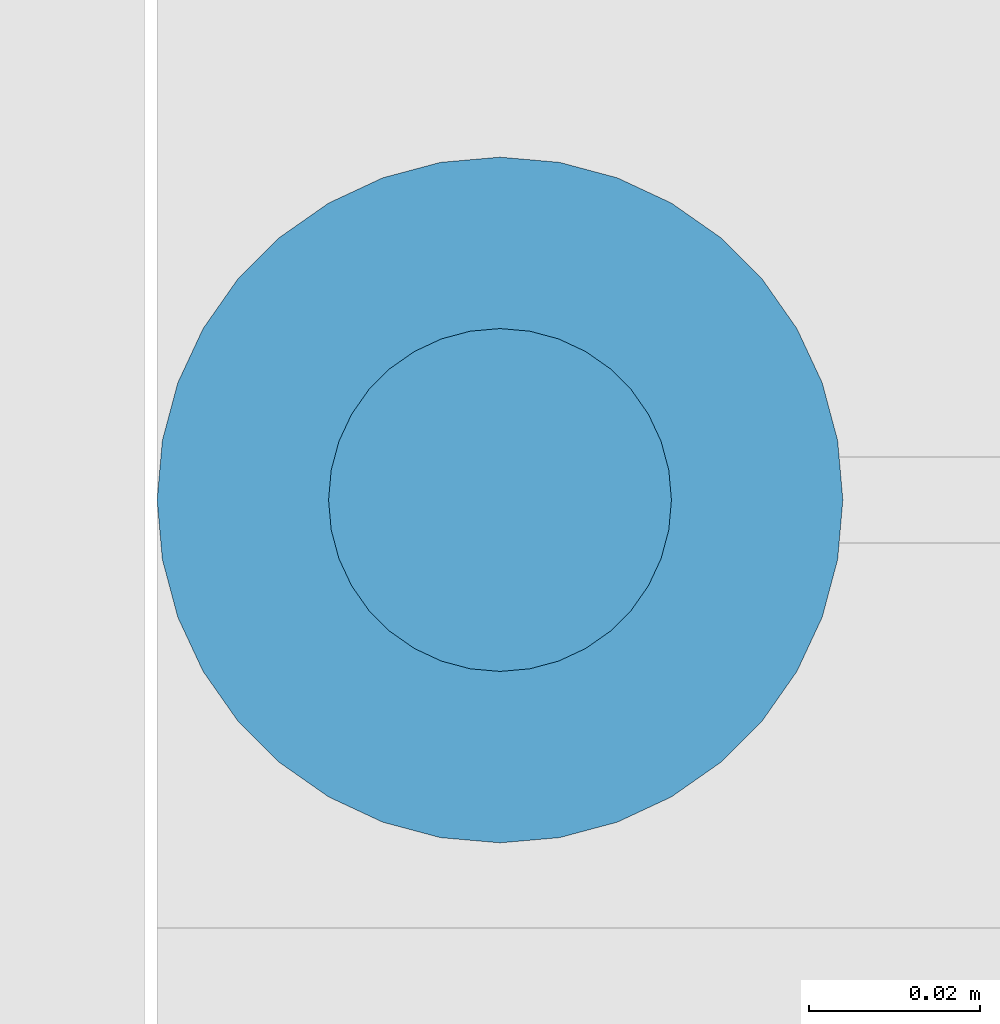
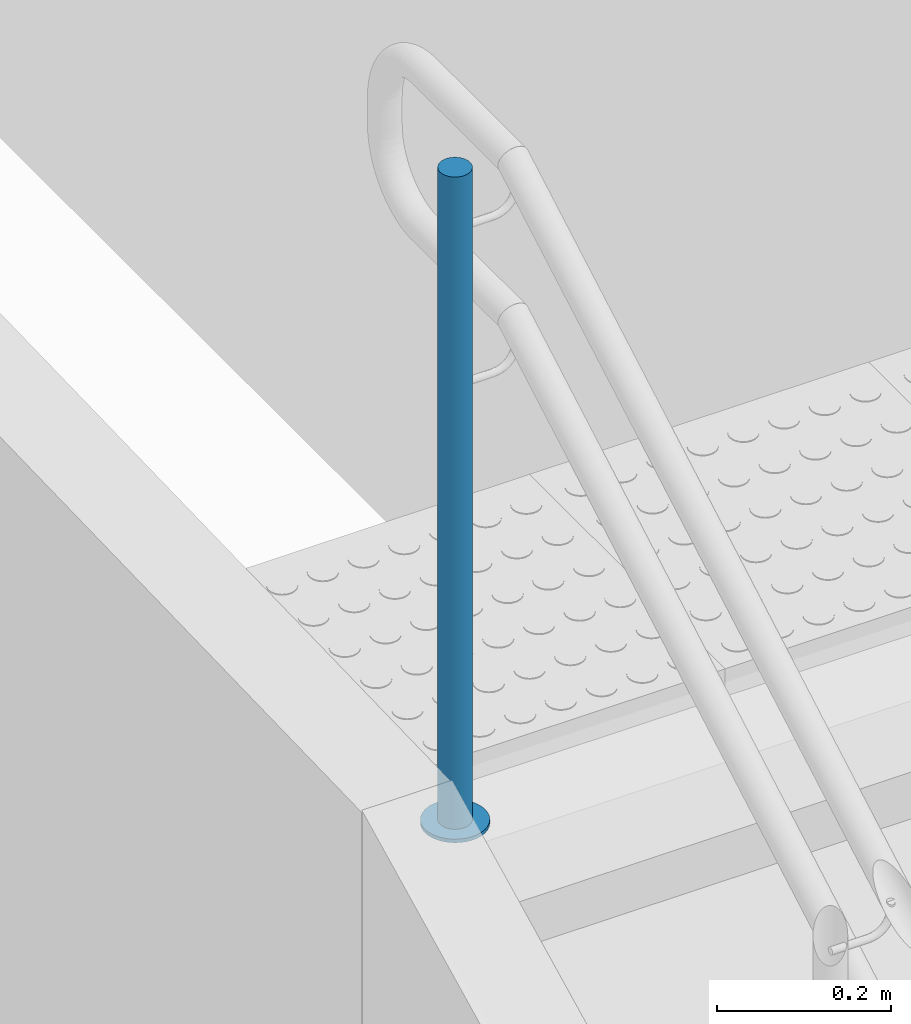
# One storey, part 85 of 237: 2 building element parts, 1 element without a shape of its own.
"""IFC2X3 building model written with IfcOpenShell, lengths in millimetres."""

from ifc_helpers import new_model, entity, si_unit, converted_unit, derived_unit, money_unit, direction, frame, origin_with_axes, place, context, subcontext, project, spatial, faceted_brep, material, type_object, element, aggregate, save


model = new_model("IFC2X3")

# Units and contexts
model_context = context("Model", 3, precision=0.01, world=origin_with_axes(), true_north=direction((0.0, 1.0)))
body_context = subcontext(model_context, "Body", "Model", "MODEL_VIEW")
ifc_project = project(units=[si_unit("LENGTHUNIT", "METRE", prefix="MILLI"), si_unit("AREAUNIT", "SQUARE_METRE"), si_unit("VOLUMEUNIT", "CUBIC_METRE"), converted_unit("PLANEANGLEUNIT", "DEGREE", entity("IfcPlaneAngleMeasure", 0.0174532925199), si_unit("PLANEANGLEUNIT", "RADIAN"), dimensions=[0, 0, 0, 0, 0, 0, 0]), money_unit("USD"), converted_unit("TIMEUNIT", "Year", entity("IfcTimeMeasure", 31556926.0), si_unit("TIMEUNIT", "SECOND"), dimensions=[0, 0, 1, 0, 0, 0, 0]), si_unit("MASSUNIT", "GRAM", prefix="KILO"), si_unit("THERMODYNAMICTEMPERATUREUNIT", "DEGREE_CELSIUS"), si_unit("LUMINOUSINTENSITYUNIT", "LUMEN"), si_unit("ENERGYUNIT", "JOULE", prefix="MEGA"), derived_unit("THERMALCONDUCTANCEUNIT", [(si_unit("POWERUNIT", "WATT"), 1), (si_unit("LENGTHUNIT", "METRE"), -1), (si_unit("THERMODYNAMICTEMPERATUREUNIT", "KELVIN"), -1)]), derived_unit("SPECIFICHEATCAPACITYUNIT", [(si_unit("ENERGYUNIT", "JOULE"), 1), (si_unit("MASSUNIT", "GRAM", prefix="KILO"), -1), (si_unit("THERMODYNAMICTEMPERATUREUNIT", "KELVIN"), -1)]), derived_unit("MASSDENSITYUNIT", [(si_unit("MASSUNIT", "GRAM", prefix="KILO"), 1), (si_unit("VOLUMEUNIT", "CUBIC_METRE"), -1)])], contexts=[model_context])

# Site, building, storey
site_placement = place(None, origin_with_axes())
site = spatial("IfcSite", under=ifc_project, at=site_placement, Name="Local", CompositionType="ELEMENT")
building_placement = place(site_placement, origin_with_axes())
building = spatial("IfcBuilding", under=site, at=building_placement, Name="Construção", CompositionType="ELEMENT")
storey_placement = place(building_placement, origin_with_axes())
storey = spatial("IfcBuildingStorey", under=building, at=storey_placement, Name="Pavimento Térreo", CompositionType="ELEMENT", Elevation=0.0)

# Railing, building element parts
railing_type = type_object("IfcRailingType", Name="Tipo de Guarda-Corpo", PredefinedType="NOTDEFINED")
railing_placement = place(storey_placement, frame((40562.4440926, 15092.6936335, -3109.00146785), z_axis=(0.0, 0.0, 1.0), x_axis=(1.0, 0.0, 0.0)))
railing = element("IfcRailing", 1, at=railing_placement, inside=storey, type_object=railing_type, Name="Guarda-Corpo - 001", PredefinedType="NOTDEFINED")
ifc_material_1 = material(Name="Aço - Inoxidável")
building_element_part_1_placement = place(railing_placement, origin_with_axes())
building_element_part_1 = element("IfcBuildingElementPart", 2, at=building_element_part_1_placement, material=ifc_material_1, Name="Aço - Inoxidável", context=body_context, shape_type="Brep", body=[
    faceted_brep([(20.3038449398, -85.8629770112, 1500.10870973), (20.0, -89.3359405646, 1500.10870973), (20.0, -89.3359405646, 2415.10870973), (20.3038449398, -85.8629770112, 2415.10870973), (20.3038449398, -92.8089041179, 1500.10870973), (21.2061475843, -82.4955376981, 1500.10870973), (22.6794919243, -79.3359405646, 1500.10870973), (24.6791111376, -76.4801883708, 1500.10870973), (27.1442478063, -74.0150517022, 1500.10870973), (30.0, -72.0154324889, 1500.10870973), (33.1595971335, -70.5420881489, 1500.10870973), (36.5270364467, -69.6397855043, 1500.10870973), (40.0, -69.3359405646, 1500.10870973), (43.4729635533, -69.6397855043, 1500.10870973), (46.8404028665, -70.5420881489, 1500.10870973), (50.0, -72.0154324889, 1500.10870973), (52.8557521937, -74.0150517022, 1500.10870973), (55.3208888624, -76.4801883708, 1500.10870973), (57.3205080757, -79.3359405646, 1500.10870973), (58.7938524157, -82.4955376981, 1500.10870973), (59.6961550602, -85.8629770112, 1500.10870973), (60.0, -89.3359405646, 1500.10870973), (59.6961550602, -92.8089041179, 1500.10870973), (58.7938524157, -96.1763434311, 1500.10870973), (57.3205080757, -99.3359405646, 1500.10870973), (55.3208888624, -102.191692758, 1500.10870973), (52.8557521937, -104.656829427, 1500.10870973), (50.0, -106.65644864, 1500.10870973), (46.8404028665, -108.12979298, 1500.10870973), (43.4729635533, -109.032095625, 1500.10870973), (40.0, -109.335940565, 1500.10870973), (36.5270364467, -109.032095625, 1500.10870973), (33.1595971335, -108.12979298, 1500.10870973), (30.0, -106.65644864, 1500.10870973), (27.1442478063, -104.656829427, 1500.10870973), (24.6791111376, -102.191692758, 1500.10870973), (22.6794919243, -99.3359405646, 1500.10870973), (21.2061475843, -96.1763434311, 1500.10870973), (20.3038449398, -92.8089041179, 2415.10870973), (43.4729635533, -69.6397855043, 2415.10870973), (40.0, -69.3359405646, 2415.10870973), (36.5270364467, -69.6397855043, 2415.10870973), (33.1595971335, -70.5420881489, 2415.10870973), (30.0, -72.0154324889, 2415.10870973), (27.1442478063, -74.0150517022, 2415.10870973), (24.6791111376, -76.4801883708, 2415.10870973), (22.6794919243, -79.3359405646, 2415.10870973), (21.2061475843, -82.4955376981, 2415.10870973), (21.2061475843, -96.1763434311, 2415.10870973), (22.6794919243, -99.3359405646, 2415.10870973), (24.6791111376, -102.191692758, 2415.10870973), (27.1442478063, -104.656829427, 2415.10870973), (30.0, -106.65644864, 2415.10870973), (33.1595971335, -108.12979298, 2415.10870973), (36.5270364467, -109.032095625, 2415.10870973), (40.0, -109.335940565, 2415.10870973), (43.4729635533, -109.032095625, 2415.10870973), (46.8404028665, -108.12979298, 2415.10870973), (50.0, -106.65644864, 2415.10870973), (52.8557521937, -104.656829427, 2415.10870973), (55.3208888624, -102.191692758, 2415.10870973), (57.3205080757, -99.3359405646, 2415.10870973), (58.7938524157, -96.1763434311, 2415.10870973), (59.6961550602, -92.8089041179, 2415.10870973), (60.0, -89.3359405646, 2415.10870973), (59.6961550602, -85.8629770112, 2415.10870973), (58.7938524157, -82.4955376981, 2415.10870973), (57.3205080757, -79.3359405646, 2415.10870973), (55.3208888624, -76.4801883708, 2415.10870973), (52.8557521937, -74.0150517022, 2415.10870973), (50.0, -72.0154324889, 2415.10870973), (46.8404028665, -70.5420881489, 2415.10870973)], [[[0, 1, 2, 3]], [[4, 1, 0, 5, 6, 7, 8, 9, 10, 11, 12, 13, 14, 15, 16, 17, 18, 19, 20, 21, 22, 23, 24, 25, 26, 27, 28, 29, 30, 31, 32, 33, 34, 35, 36, 37]], [[1, 4, 38, 2]], [[39, 40, 41, 42, 43, 44, 45, 46, 47, 3, 2, 38, 48, 49, 50, 51, 52, 53, 54, 55, 56, 57, 58, 59, 60, 61, 62, 63, 64, 65, 66, 67, 68, 69, 70, 71]], [[5, 0, 3, 47]], [[6, 5, 47, 46]], [[7, 6, 46, 45]], [[8, 7, 45, 44]], [[9, 8, 44, 43]], [[10, 9, 43, 42]], [[11, 10, 42, 41]], [[12, 11, 41, 40]], [[13, 12, 40, 39]], [[14, 13, 39, 71]], [[15, 14, 71, 70]], [[16, 15, 70, 69]], [[17, 16, 69, 68]], [[18, 17, 68, 67]], [[19, 18, 67, 66]], [[20, 19, 66, 65]], [[21, 20, 65, 64]], [[22, 21, 64, 63]], [[23, 22, 63, 62]], [[24, 23, 62, 61]], [[25, 24, 61, 60]], [[26, 25, 60, 59]], [[27, 26, 59, 58]], [[28, 27, 58, 57]], [[29, 28, 57, 56]], [[30, 29, 56, 55]], [[31, 30, 55, 54]], [[32, 31, 54, 53]], [[33, 32, 53, 52]], [[34, 33, 52, 51]], [[35, 34, 51, 50]], [[36, 35, 50, 49]], [[37, 36, 49, 48]], [[4, 37, 48, 38]]]),
])
ifc_material_2 = material(Name="Alumínio")
building_element_part_2_placement = place(railing_placement, origin_with_axes())
building_element_part_2 = element("IfcBuildingElementPart", 3, at=building_element_part_2_placement, material=ifc_material_2, Name="Alumínio", context=body_context, shape_type="Brep", body=[
    faceted_brep([(40.0, -129.335940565, 1495.10870973), (46.9459271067, -128.728250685, 1495.10870973), (46.9459271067, -128.728250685, 1500.10870973), (40.0, -129.335940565, 1500.10870973), (33.0540728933, -128.728250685, 1495.10870973), (26.319194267, -126.923645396, 1495.10870973), (20.0, -123.976956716, 1495.10870973), (14.2884956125, -119.977718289, 1495.10870973), (9.35822227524, -115.047444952, 1495.10870973), (5.35898384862, -109.335940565, 1495.10870973), (2.41229516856, -103.016746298, 1495.10870973), (0.607689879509, -96.2818676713, 1495.10870973), (0.0, -89.3359405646, 1495.10870973), (0.607689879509, -82.3900134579, 1495.10870973), (2.41229516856, -75.6551348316, 1495.10870973), (5.35898384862, -69.3359405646, 1495.10870973), (9.35822227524, -63.6244361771, 1495.10870973), (14.2884956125, -58.6941628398, 1495.10870973), (20.0, -54.6949244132, 1495.10870973), (26.319194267, -51.7482357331, 1495.10870973), (33.0540728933, -49.9436304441, 1495.10870973), (40.0, -49.3359405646, 1495.10870973), (46.9459271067, -49.9436304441, 1495.10870973), (53.680805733, -51.7482357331, 1495.10870973), (60.0, -54.6949244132, 1495.10870973), (65.7115043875, -58.6941628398, 1495.10870973), (70.6417777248, -63.6244361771, 1495.10870973), (74.6410161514, -69.3359405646, 1495.10870973), (77.5877048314, -75.6551348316, 1495.10870973), (79.3923101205, -82.3900134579, 1495.10870973), (80.0, -89.3359405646, 1495.10870973), (79.3923101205, -96.2818676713, 1495.10870973), (77.5877048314, -103.016746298, 1495.10870973), (74.6410161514, -109.335940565, 1495.10870973), (70.6417777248, -115.047444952, 1495.10870973), (65.7115043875, -119.977718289, 1495.10870973), (60.0, -123.976956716, 1495.10870973), (53.680805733, -126.923645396, 1495.10870973), (53.680805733, -126.923645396, 1500.10870973), (60.0, -123.976956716, 1500.10870973), (65.7115043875, -119.977718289, 1500.10870973), (70.6417777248, -115.047444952, 1500.10870973), (74.6410161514, -109.335940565, 1500.10870973), (77.5877048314, -103.016746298, 1500.10870973), (79.3923101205, -96.2818676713, 1500.10870973), (80.0, -89.3359405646, 1500.10870973), (79.3923101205, -82.3900134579, 1500.10870973), (77.5877048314, -75.6551348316, 1500.10870973), (74.6410161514, -69.3359405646, 1500.10870973), (70.6417777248, -63.6244361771, 1500.10870973), (65.7115043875, -58.6941628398, 1500.10870973), (60.0, -54.6949244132, 1500.10870973), (53.680805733, -51.7482357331, 1500.10870973), (46.9459271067, -49.9436304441, 1500.10870973), (40.0, -49.3359405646, 1500.10870973), (33.0540728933, -49.9436304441, 1500.10870973), (26.319194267, -51.7482357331, 1500.10870973), (20.0, -54.6949244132, 1500.10870973), (14.2884956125, -58.6941628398, 1500.10870973), (9.35822227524, -63.6244361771, 1500.10870973), (5.35898384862, -69.3359405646, 1500.10870973), (2.41229516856, -75.6551348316, 1500.10870973), (0.607689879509, -82.3900134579, 1500.10870973), (0.0, -89.3359405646, 1500.10870973), (0.607689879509, -96.2818676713, 1500.10870973), (2.41229516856, -103.016746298, 1500.10870973), (5.35898384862, -109.335940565, 1500.10870973), (9.35822227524, -115.047444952, 1500.10870973), (14.2884956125, -119.977718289, 1500.10870973), (20.0, -123.976956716, 1500.10870973), (26.319194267, -126.923645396, 1500.10870973), (33.0540728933, -128.728250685, 1500.10870973)], [[[0, 1, 2, 3]], [[0, 4, 5, 6, 7, 8, 9, 10, 11, 12, 13, 14, 15, 16, 17, 18, 19, 20, 21, 22, 23, 24, 25, 26, 27, 28, 29, 30, 31, 32, 33, 34, 35, 36, 37, 1]], [[1, 37, 38, 2]], [[3, 2, 38, 39, 40, 41, 42, 43, 44, 45, 46, 47, 48, 49, 50, 51, 52, 53, 54, 55, 56, 57, 58, 59, 60, 61, 62, 63, 64, 65, 66, 67, 68, 69, 70, 71]], [[4, 0, 3, 71]], [[5, 4, 71, 70]], [[6, 5, 70, 69]], [[7, 6, 69, 68]], [[8, 7, 68, 67]], [[9, 8, 67, 66]], [[10, 9, 66, 65]], [[11, 10, 65, 64]], [[12, 11, 64, 63]], [[13, 12, 63, 62]], [[14, 13, 62, 61]], [[15, 14, 61, 60]], [[16, 15, 60, 59]], [[17, 16, 59, 58]], [[18, 17, 58, 57]], [[19, 18, 57, 56]], [[20, 19, 56, 55]], [[21, 20, 55, 54]], [[22, 21, 54, 53]], [[23, 22, 53, 52]], [[24, 23, 52, 51]], [[25, 24, 51, 50]], [[26, 25, 50, 49]], [[27, 26, 49, 48]], [[28, 27, 48, 47]], [[29, 28, 47, 46]], [[30, 29, 46, 45]], [[31, 30, 45, 44]], [[32, 31, 44, 43]], [[33, 32, 43, 42]], [[34, 33, 42, 41]], [[35, 34, 41, 40]], [[36, 35, 40, 39]], [[37, 36, 39, 38]]]),
])
aggregate(railing, [building_element_part_1, building_element_part_2])

save(model, "model.ifc")
